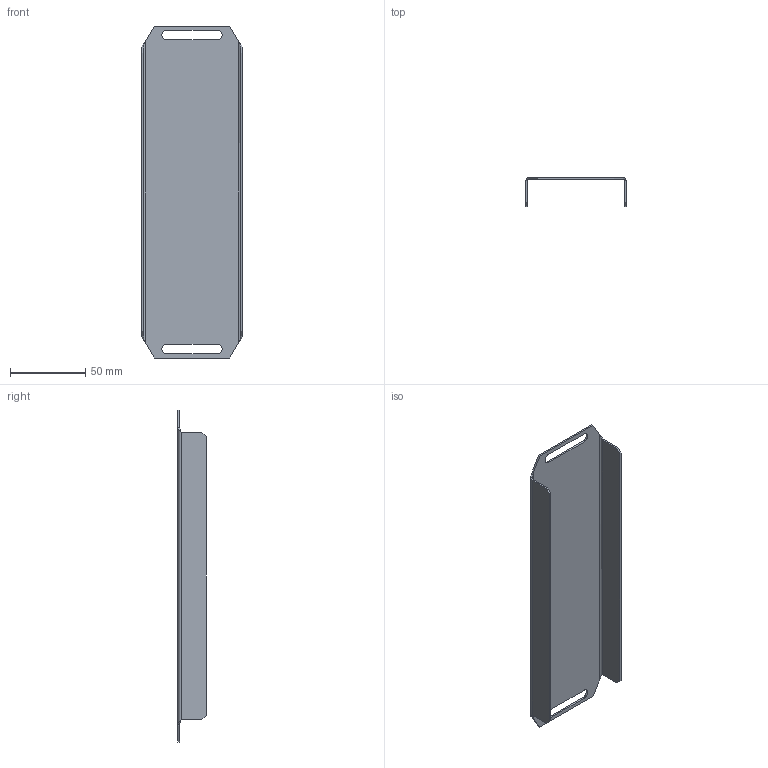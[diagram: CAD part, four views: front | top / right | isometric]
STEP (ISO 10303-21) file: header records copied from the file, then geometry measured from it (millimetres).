
FILE_DESCRIPTION (( 'STEP AP203' ), '1' );
FILE_NAME ('PKV 40 S Ïàíåëü ñòàöèîíàðíàÿ.STEP', '2021-05-17T06:29:07', ( '' ), ( '' ), 'SwSTEP 2.0', 'SolidWorks 2018', '' );
FILE_SCHEMA (( 'CONFIG_CONTROL_DESIGN' ));
Length unit declared in the file: millimetre
Products named in the file (1): PKV 40 S Ïàíåëü ñòàöèîíàðíàÿ
Bounding box: 67 x 19 x 220.5 mm (x, y, z)
Volume: 24609.9 mm3; surface area: 41958.7 mm2
Topology: 1 solids, 1 shells, 38 faces, 92 edges, 56 vertices
Faces by surface type: plane 26, cylinder 8, bspline 4
Entity records: 1281 total; most frequent: CARTESIAN_POINT 351, ORIENTED_EDGE 184, DIRECTION 154, EDGE_CURVE 92, VECTOR 68, LINE 68, VERTEX_POINT 56, AXIS2_PLACEMENT_3D 43
